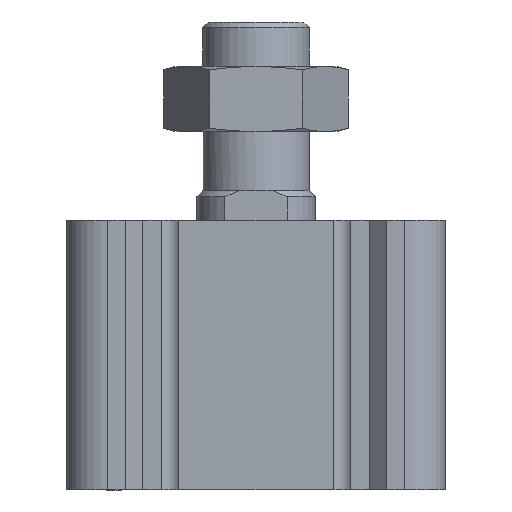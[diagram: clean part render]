
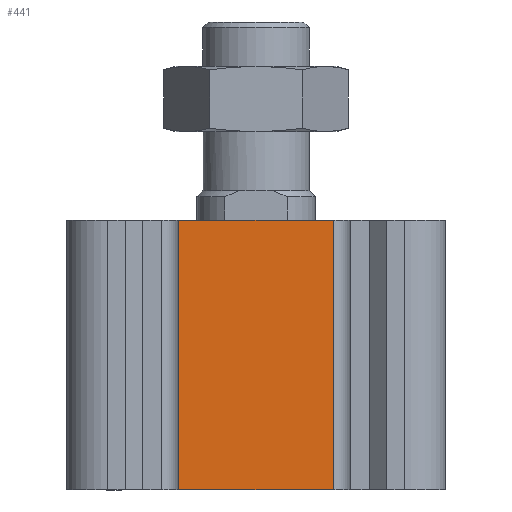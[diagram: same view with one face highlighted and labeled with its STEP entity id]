
A CAD part, left-side view. The second image highlights one B-rep face of the part: STEP entity #441.
In plain terms, the highlighted planar face has unit normal (-1, 0, 0).
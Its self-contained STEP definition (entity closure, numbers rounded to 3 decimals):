
#441 = ADVANCED_FACE( '', ( #954 ), #955, .T. );
#954 = FACE_OUTER_BOUND( '', #1522, .T. );
#955 = PLANE( '', #1523 );
#1522 = EDGE_LOOP( '', ( #2536, #2537, #2538, #2539 ) );
#1523 = AXIS2_PLACEMENT_3D( '', #2540, #2541, #2542 );
#2536 = ORIENTED_EDGE( '', *, *, #3151, .F. );
#2537 = ORIENTED_EDGE( '', *, *, #3346, .F. );
#2538 = ORIENTED_EDGE( '', *, *, #3347, .T. );
#2539 = ORIENTED_EDGE( '', *, *, #3041, .T. );
#2540 = CARTESIAN_POINT( '', ( -29., 13., -45.5 ) );
#2541 = DIRECTION( '', ( -1., 0., 0. ) );
#2542 = DIRECTION( '', ( 0., 0., 1. ) );
#3041 = EDGE_CURVE( '', #3568, #3565, #3569, .T. );
#3151 = EDGE_CURVE( '', #3755, #3565, #3757, .T. );
#3346 = EDGE_CURVE( '', #4030, #3755, #4031, .T. );
#3347 = EDGE_CURVE( '', #4030, #3568, #4032, .T. );
#3565 = VERTEX_POINT( '', #4307 );
#3568 = VERTEX_POINT( '', #4311 );
#3569 = LINE( '', #4312, #4313 );
#3755 = VERTEX_POINT( '', #4580 );
#3757 = LINE( '', #4583, #4584 );
#4030 = VERTEX_POINT( '', #4976 );
#4031 = LINE( '', #4977, #4978 );
#4032 = LINE( '', #4979, #4980 );
#4307 = CARTESIAN_POINT( '', ( -29., -13., 0. ) );
#4311 = CARTESIAN_POINT( '', ( -29., -13., -45.5 ) );
#4312 = CARTESIAN_POINT( '', ( -29., -13., -45.5 ) );
#4313 = VECTOR( '', #5260, 1000. );
#4580 = CARTESIAN_POINT( '', ( -29., 13., 0. ) );
#4583 = CARTESIAN_POINT( '', ( -29., 13., 0. ) );
#4584 = VECTOR( '', #5404, 1000. );
#4976 = CARTESIAN_POINT( '', ( -29., 13., -45.5 ) );
#4977 = CARTESIAN_POINT( '', ( -29., 13., -45.5 ) );
#4978 = VECTOR( '', #5600, 1000. );
#4979 = CARTESIAN_POINT( '', ( -29., 13., -45.5 ) );
#4980 = VECTOR( '', #5601, 1000. );
#5260 = DIRECTION( '', ( 0., 0., 1. ) );
#5404 = DIRECTION( '', ( 0., -1., 0. ) );
#5600 = DIRECTION( '', ( 0., 0., 1. ) );
#5601 = DIRECTION( '', ( 0., -1., 0. ) );
